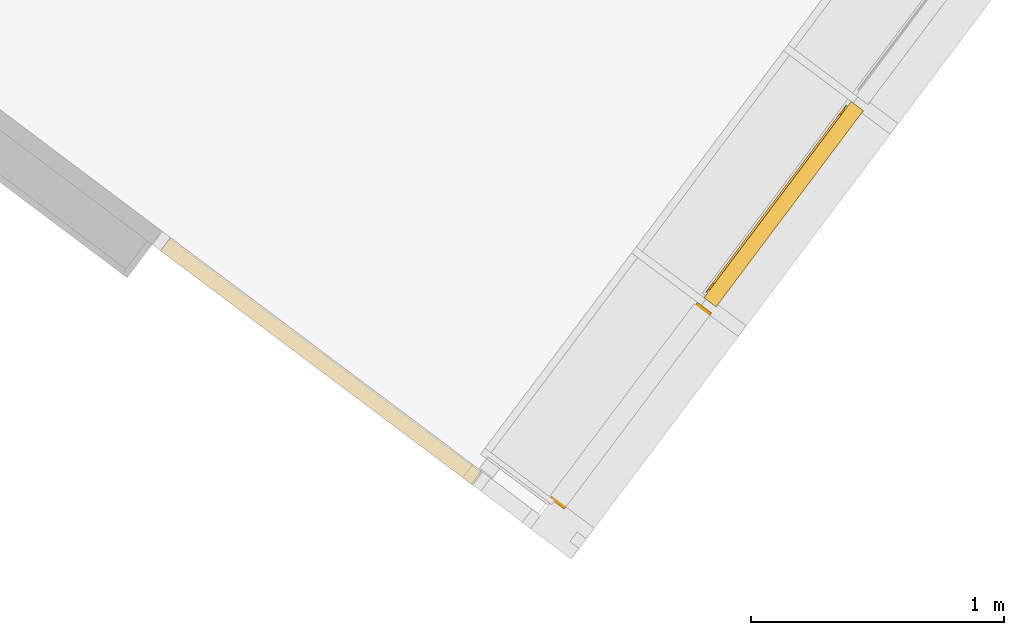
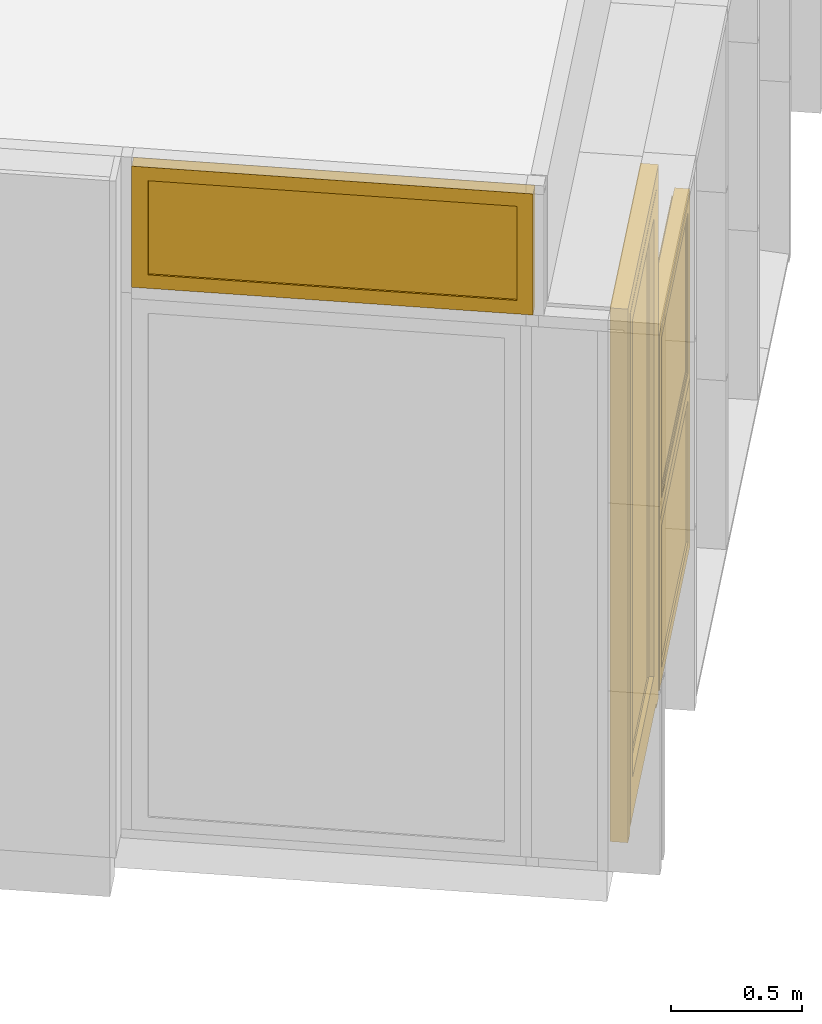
# One storey, part 143 of 243: 3 windows, 1 door, 2 elements without a shape of their own.
"""IFC2X3 building model written with IfcOpenShell, lengths in metres."""

from ifc_helpers import new_model, entity, si_unit, converted_unit, derived_unit, direction, frame, origin, place, context, subcontext, project, spatial, faceted_brep, source, transform, mapped, material, material_list, type_object, type_shapes, element, aggregate, save


model = new_model("IFC2X3")

# Units and contexts
model_context = context("Model", 3, precision=1e-05, world=origin(), true_north=direction((6.123031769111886e-17, 1.0)))
body_context = subcontext(model_context, "Body", "Model", "MODEL_VIEW")
ifc_project = project(units=[si_unit("LENGTHUNIT", "METRE"), si_unit("AREAUNIT", "SQUARE_METRE"), si_unit("VOLUMEUNIT", "CUBIC_METRE"), converted_unit("PLANEANGLEUNIT", "DEGREE", entity("IfcRatioMeasure", 0.017453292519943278), si_unit("PLANEANGLEUNIT", "RADIAN"), dimensions=[0, 0, 0, 0, 0, 0, 0]), si_unit("MASSUNIT", "GRAM", prefix="KILO"), derived_unit("MASSDENSITYUNIT", [(si_unit("MASSUNIT", "GRAM", prefix="KILO"), 1), (si_unit("LENGTHUNIT", "METRE"), -3)]), derived_unit("IONCONCENTRATIONUNIT", [(si_unit("MASSUNIT", "GRAM", prefix="KILO"), 1), (si_unit("LENGTHUNIT", "METRE"), -3)]), derived_unit("MOMENTOFINERTIAUNIT", [(si_unit("LENGTHUNIT", "METRE"), 4)]), si_unit("TIMEUNIT", "SECOND"), si_unit("FREQUENCYUNIT", "HERTZ"), si_unit("THERMODYNAMICTEMPERATUREUNIT", "DEGREE_CELSIUS"), derived_unit("THERMALTRANSMITTANCEUNIT", [(si_unit("MASSUNIT", "GRAM", prefix="KILO"), 1), (si_unit("THERMODYNAMICTEMPERATUREUNIT", "KELVIN"), -1), (si_unit("TIMEUNIT", "SECOND"), -3)]), derived_unit("THERMALCONDUCTANCEUNIT", [(si_unit("MASSUNIT", "GRAM", prefix="KILO"), 1), (si_unit("THERMODYNAMICTEMPERATUREUNIT", "KELVIN"), -1), (si_unit("TIMEUNIT", "SECOND"), -3), (si_unit("LENGTHUNIT", "METRE"), 1)]), derived_unit("VOLUMETRICFLOWRATEUNIT", [(si_unit("LENGTHUNIT", "METRE"), 3), (si_unit("TIMEUNIT", "SECOND"), -1)]), derived_unit("MASSFLOWRATEUNIT", [(si_unit("MASSUNIT", "GRAM", prefix="KILO"), 1), (si_unit("TIMEUNIT", "SECOND"), -1)]), derived_unit("ROTATIONALFREQUENCYUNIT", [(si_unit("TIMEUNIT", "SECOND"), -1)]), si_unit("ELECTRICCURRENTUNIT", "AMPERE"), si_unit("ELECTRICVOLTAGEUNIT", "VOLT"), si_unit("POWERUNIT", "WATT"), si_unit("FORCEUNIT", "NEWTON", prefix="KILO"), si_unit("ILLUMINANCEUNIT", "LUX"), si_unit("LUMINOUSFLUXUNIT", "LUMEN"), si_unit("LUMINOUSINTENSITYUNIT", "CANDELA"), derived_unit("USERDEFINED", [(si_unit("MASSUNIT", "GRAM", prefix="KILO"), -1), (si_unit("LENGTHUNIT", "METRE"), -2), (si_unit("TIMEUNIT", "SECOND"), 3), (si_unit("LUMINOUSFLUXUNIT", "LUMEN"), 1)]), derived_unit("USERDEFINED", [(si_unit("MASSUNIT", "GRAM", prefix="KILO"), 1), (si_unit("TIMEUNIT", "SECOND"), -3), (si_unit("LENGTHUNIT", "METRE"), 3), (si_unit("ELECTRICCURRENTUNIT", "AMPERE"), -2)]), derived_unit("SOUNDPOWERUNIT", [(si_unit("MASSUNIT", "GRAM", prefix="KILO"), 1), (si_unit("TIMEUNIT", "SECOND"), -3), (si_unit("LENGTHUNIT", "METRE"), 2)]), derived_unit("SOUNDPRESSUREUNIT", [(si_unit("MASSUNIT", "GRAM", prefix="KILO"), 1), (si_unit("LENGTHUNIT", "METRE"), -1), (si_unit("TIMEUNIT", "SECOND"), -2)]), derived_unit("LINEARVELOCITYUNIT", [(si_unit("LENGTHUNIT", "METRE"), 1), (si_unit("TIMEUNIT", "SECOND"), -1)]), si_unit("PRESSUREUNIT", "PASCAL"), derived_unit("USERDEFINED", [(si_unit("MASSUNIT", "GRAM", prefix="KILO"), 1), (si_unit("LENGTHUNIT", "METRE"), -2), (si_unit("TIMEUNIT", "SECOND"), -2)]), derived_unit("LINEARFORCEUNIT", [(si_unit("MASSUNIT", "GRAM", prefix="KILO"), 1), (si_unit("TIMEUNIT", "SECOND"), -2)]), derived_unit("PLANARFORCEUNIT", [(si_unit("MASSUNIT", "GRAM", prefix="KILO"), 1), (si_unit("LENGTHUNIT", "METRE"), -1), (si_unit("TIMEUNIT", "SECOND"), -2)]), derived_unit("SPECIFICHEATCAPACITYUNIT", [(si_unit("THERMODYNAMICTEMPERATUREUNIT", "KELVIN"), -1), (si_unit("LENGTHUNIT", "METRE"), 2), (si_unit("TIMEUNIT", "SECOND"), -2)]), derived_unit("HEATINGVALUEUNIT", [(si_unit("LENGTHUNIT", "METRE"), 2), (si_unit("TIMEUNIT", "SECOND"), -2)]), derived_unit("VAPORPERMEABILITYUNIT", [(si_unit("LENGTHUNIT", "METRE"), -1), (si_unit("TIMEUNIT", "SECOND"), 1)]), derived_unit("DYNAMICVISCOSITYUNIT", [(si_unit("MASSUNIT", "GRAM", prefix="KILO"), 1), (si_unit("TIMEUNIT", "SECOND"), -1), (si_unit("LENGTHUNIT", "METRE"), -1)]), derived_unit("THERMALEXPANSIONCOEFFICIENTUNIT", [(si_unit("THERMODYNAMICTEMPERATUREUNIT", "KELVIN"), -1)]), derived_unit("MODULUSOFELASTICITYUNIT", [(si_unit("MASSUNIT", "GRAM", prefix="KILO"), 1), (si_unit("LENGTHUNIT", "METRE"), -1), (si_unit("TIMEUNIT", "SECOND"), -2)]), derived_unit("ISOTHERMALMOISTURECAPACITYUNIT", [(si_unit("LENGTHUNIT", "METRE"), 3), (si_unit("MASSUNIT", "GRAM", prefix="KILO"), -1)]), derived_unit("MOISTUREDIFFUSIVITYUNIT", [(si_unit("TIMEUNIT", "SECOND"), -1), (si_unit("LENGTHUNIT", "METRE"), 2)])], contexts=[model_context])

# Site, building, storey
site_placement = place(None, frame((0.0, 0.0, 235.0), z_axis=(0.0, 0.0, 1.0), x_axis=(-0.7996477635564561, 0.6004693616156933, 0.0)))
site = spatial("IfcSite", under=ifc_project, at=site_placement, Name="Default", CompositionType="ELEMENT")
building_placement = place(site_placement, origin())
building = spatial("IfcBuilding", under=site, at=building_placement, CompositionType="ELEMENT")
storey_placement = place(building_placement, origin())
storey = spatial("IfcBuildingStorey", under=building, at=storey_placement, Name="P0- Escola", CompositionType="ELEMENT", Elevation=0.0)

# Curtain wall, windows, door
curtain_wall_type_1 = type_object("IfcCurtainWallType", Name="Muro cortina:MC- EXT- MC2", PredefinedType="NOTDEFINED")
curtain_wall_1_placement = place(storey_placement, origin())
curtain_wall_1 = element("IfcCurtainWall", 1, at=curtain_wall_1_placement, inside=storey, type_object=curtain_wall_type_1, Name="Muro cortina:MC- EXT- MC2", ObjectType="Muro cortina:MC- EXT- MC2")
ifc_material_1 = material(Name="_Vidre")
ifc_material_2 = material(Name="_Alumini- T1- Perfil")
ifc_material_list_1 = material_list([ifc_material_1, ifc_material_2])
window_style_1 = type_object("IfcWindowStyle", Name="MC- Alu- Conjunt vidre fix- 62x60 cm:MC- Alu- Conjunt vidre fix- 62x60 cm", ConstructionType="NOTDEFINED", OperationType="NOTDEFINED", ParameterTakesPrecedence=False, Sizeable=False, material=ifc_material_list_1)
shared_shape_1 = source(origin(), body_context, "Body", "Brep", [
    faceted_brep([(0.4361932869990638, -0.007600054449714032, 0.048806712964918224), (0.4361932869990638, -0.03160022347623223, 0.048806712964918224), (-0.4361932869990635, -0.03160022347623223, 0.048806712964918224), (-0.4361932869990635, -0.007600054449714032, 0.048806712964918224), (0.4361932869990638, -0.007600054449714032, 0.7387000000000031), (-0.4361932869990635, -0.007600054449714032, 0.7387000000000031), (-0.4361932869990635, -0.03160022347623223, 0.7387000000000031), (0.4361932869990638, -0.03160022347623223, 0.7387000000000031)], [[[0, 1, 2, 3]], [[4, 0, 3, 5]], [[5, 3, 2, 6]], [[6, 2, 1, 7]], [[7, 1, 0, 4]], [[4, 5, 6, 7]]]),
    faceted_brep([(0.48499999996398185, -0.05999999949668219, 0.7877000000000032), (0.48499999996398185, -0.05999999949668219, 0.0), (0.48499999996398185, 0.0, 0.0), (0.48499999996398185, 0.0, 0.787700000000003), (-0.48499999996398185, 0.0, 0.7877000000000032), (-0.48499999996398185, 0.0, 0.0), (0.4221931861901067, 0.0, 0.7248931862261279), (-0.42219318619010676, 0.0, 0.724893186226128), (-0.4221931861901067, 0.0, 0.0628068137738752), (0.4221931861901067, 0.0, 0.06280681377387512), (-0.48499999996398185, -0.05999999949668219, 0.0), (-0.48499999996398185, -0.05999999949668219, 0.7877000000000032), (-0.42219603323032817, -0.05999999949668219, 0.7248960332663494), (0.42219603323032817, -0.05999999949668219, 0.7248960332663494), (0.42219603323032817, -0.05999999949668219, 0.0628039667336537), (-0.42219603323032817, -0.05999999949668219, 0.0628039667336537), (0.4221960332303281, -0.03160022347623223, 0.7248960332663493), (0.42219603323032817, -0.03160022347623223, 0.0628039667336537), (-0.42219603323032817, -0.03160022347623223, 0.06280396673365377), (-0.42219603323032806, -0.03160022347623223, 0.7248960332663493), (-0.43619328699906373, -0.03160022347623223, 0.738893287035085), (0.43619328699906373, -0.03160022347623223, 0.738893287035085), (0.43619328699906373, -0.03160022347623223, 0.048806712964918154), (-0.43619328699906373, -0.03160022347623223, 0.04880671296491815), (0.43619328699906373, -0.007600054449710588, 0.738893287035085), (0.43619328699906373, -0.007600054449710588, 0.04880671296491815), (-0.43619328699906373, -0.007600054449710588, 0.048806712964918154), (-0.43619328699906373, -0.007600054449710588, 0.738893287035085), (-0.42219318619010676, -0.007600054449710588, 0.724893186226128), (0.42219318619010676, -0.007600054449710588, 0.724893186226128), (0.42219318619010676, -0.007600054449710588, 0.06280681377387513), (-0.42219318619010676, -0.007600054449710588, 0.06280681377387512)], [[[0, 1, 2, 3]], [[4, 3, 2, 5], [6, 7, 8, 9]], [[1, 10, 5, 2]], [[0, 11, 10, 1], [12, 13, 14, 15]], [[16, 17, 14, 13]], [[17, 18, 15, 14]], [[16, 19, 18, 17], [20, 21, 22, 23]], [[24, 25, 22, 21]], [[25, 26, 23, 22]], [[24, 27, 26, 25], [28, 29, 30, 31]], [[6, 9, 30, 29]], [[9, 8, 31, 30]], [[10, 11, 4, 5]], [[18, 19, 12, 15]], [[26, 27, 20, 23]], [[8, 7, 28, 31]], [[11, 0, 3, 4]], [[19, 16, 13, 12]], [[27, 24, 21, 20]], [[7, 6, 29, 28]]], outer=[[True], [True, False], [True], [True, False], [True], [True], [False, True], [True], [True], [True, False], [True], [True], [True], [True], [True], [True], [True], [True], [True], [True]]),
])
type_shapes(window_style_1, [shared_shape_1])
window_1_placement = place(curtain_wall_1_placement, frame((41.04514768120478, -21.915191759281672, 0.03229999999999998), z_axis=(0.0, 0.0, 1.0), x_axis=(0.0, 1.0, 0.0)))
window_1 = element("IfcWindow", 2, at=window_1_placement, type_object=window_style_1, material=ifc_material_list_1, Name="MC- Alu- Conjunt vidre fix- 62x60 cm:MC- Alu- Conjunt vidre fix- 62x60 cm", ObjectType="MC- Alu- Conjunt vidre fix- 62x60 cm:MC- Alu- Conjunt vidre fix- 62x60 cm", OverallHeight=0.7877000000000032, OverallWidth=0.9699999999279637, context=body_context, shape_type="MappedRepresentation", body=[
    mapped(shared_shape_1, transform((0.0, 0.0, 0.0), scale=1.0)),
])
ifc_material_list_2 = material_list([ifc_material_2, ifc_material_1])
door_style = type_object("IfcDoorStyle", Name="MC- Alu- Conjunt porta- 70x60 cm- +15cm- obertura int:MC- Alu- Conjunt porta- 70x60 cm- +15cm- obertura int", ConstructionType="NOTDEFINED", OperationType="NOTDEFINED", ParameterTakesPrecedence=False, Sizeable=False, material=ifc_material_list_2)
shared_shape_2 = source(origin(), body_context, "Body", "Brep", [
    faceted_brep([(0.411699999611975, 0.0, 0.024000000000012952), (0.411699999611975, -0.0656997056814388, 0.024000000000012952), (-0.41169999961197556, -0.06569970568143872, 0.024000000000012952), (-0.41169999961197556, 0.0, 0.024000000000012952), (0.41169999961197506, -0.0656997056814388, 2.410449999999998), (0.41169999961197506, 0.0, 2.410449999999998), (-0.41169999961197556, -0.06569970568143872, 2.410449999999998), (-0.4356999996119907, -0.06569970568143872, 0.0), (-0.4356999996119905, -0.06569970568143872, 2.4344500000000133), (0.4356999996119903, -0.06569970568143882, 2.4344500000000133), (0.4356999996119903, -0.0656997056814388, 0.0), (-0.41169999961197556, 0.0, 2.410449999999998), (0.33509999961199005, 0.0, 2.333850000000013), (-0.33509999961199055, 0.0, 2.3338500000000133), (-0.33509999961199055, 0.0, 0.20400000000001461), (0.33509999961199, 0.0, 0.20400000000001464), (-0.4356999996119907, -0.06999970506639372, 2.4344500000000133), (-0.4356999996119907, -0.0699997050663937, 0.0), (0.4356999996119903, -0.06999970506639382, 0.0), (0.43569999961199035, -0.06999970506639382, 2.4344500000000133), (-0.33509999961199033, -0.06999970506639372, 2.333850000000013), (0.33509999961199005, -0.06999970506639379, 2.333850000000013), (0.33509999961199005, -0.0699997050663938, 0.20400000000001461), (-0.33509999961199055, -0.06999970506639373, 0.20400000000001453), (-0.3350999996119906, -0.06449970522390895, 2.333850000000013), (-0.3350999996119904, -0.06449970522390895, 0.20400000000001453), (0.33509999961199, -0.06449970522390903, 0.20400000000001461), (0.33509999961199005, -0.06449970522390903, 2.333850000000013), (-0.36010000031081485, -0.06449970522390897, 2.3588500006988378), (0.3601000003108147, -0.06449970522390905, 2.3588500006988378), (0.3601000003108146, -0.06449970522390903, 0.17899999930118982), (-0.36010000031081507, -0.06449970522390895, 0.17899999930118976), (-0.3601000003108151, -0.018999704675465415, 2.3588500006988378), (-0.36010000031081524, -0.01899970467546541, 0.17899999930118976), (0.36010000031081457, -0.01899970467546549, 0.17899999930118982), (0.36010000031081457, -0.01899970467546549, 2.3588500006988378), (-0.33509999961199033, -0.018999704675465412, 2.333850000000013), (0.33509999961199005, -0.018999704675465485, 2.333850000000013), (0.33509999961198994, -0.01899970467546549, 0.20400000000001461), (-0.33509999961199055, -0.018999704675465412, 0.20400000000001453)], [[[0, 1, 2, 3]], [[4, 1, 0, 5]], [[2, 1, 4, 6], [7, 8, 9, 10]], [[2, 6, 11, 3]], [[12, 13, 14, 15], [11, 5, 0, 3]], [[16, 8, 7, 17]], [[10, 18, 17, 7]], [[18, 19, 16, 17], [20, 21, 22, 23]], [[24, 20, 23, 25]], [[23, 22, 26, 25]], [[27, 24, 25, 26], [28, 29, 30, 31]], [[32, 28, 31, 33]], [[33, 31, 30, 34]], [[35, 32, 33, 34], [36, 37, 38, 39]], [[13, 36, 39, 14]], [[39, 38, 15, 14]], [[9, 19, 18, 10]], [[21, 27, 26, 22]], [[29, 35, 34, 30]], [[37, 12, 15, 38]], [[19, 9, 8, 16]], [[27, 21, 20, 24]], [[35, 29, 28, 32]], [[12, 37, 36, 13]], [[4, 5, 11, 6]]], outer=[[True], [True], [False, True], [True], [False, True], [True], [True], [True, False], [True], [True], [False, True], [True], [True], [True, False], [True], [True], [True], [True], [True], [True], [True], [True], [True], [True], [True]]),
    faceted_brep([(-0.36010000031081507, -0.06089980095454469, 0.17899999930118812), (-0.36010000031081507, -0.02889980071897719, 0.17899999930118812), (0.3601000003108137, -0.028899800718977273, 0.17899999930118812), (0.3601000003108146, -0.06089980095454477, 0.17899999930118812), (-0.36010000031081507, -0.06089980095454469, 2.3588500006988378), (-0.36010000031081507, -0.028899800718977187, 2.3588500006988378), (0.3601000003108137, -0.028899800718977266, 2.3588500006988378), (0.3601000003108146, -0.06089980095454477, 2.3588500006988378)], [[[0, 1, 2, 3]], [[4, 5, 1, 0]], [[5, 6, 2, 1]], [[6, 7, 3, 2]], [[7, 4, 0, 3]], [[4, 7, 6, 5]]]),
    faceted_brep([(0.4849999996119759, -0.06999999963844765, 0.0), (0.44369999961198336, -0.06999999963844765, 0.0), (0.44369999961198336, -0.059699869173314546, 0.0), (0.4331999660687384, -0.059699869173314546, 0.0), (0.4331999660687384, -0.008800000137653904, 0.0), (0.4176999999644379, -0.008800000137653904, 0.0), (0.4176999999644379, 0.0, 0.0), (0.4849999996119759, 0.0, 0.0), (0.4849999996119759, -0.06999999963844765, 2.4837499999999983), (-0.4849999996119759, -0.06999999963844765, 2.4837499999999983), (-0.4849999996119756, -0.06999999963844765, 0.0), (-0.4436999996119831, -0.06999999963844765, 0.0), (-0.4436999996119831, -0.06999999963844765, 2.442450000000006), (0.44369999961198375, -0.06999999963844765, 2.4424500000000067), (0.44369999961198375, -0.059699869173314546, 2.4424500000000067), (-0.44369999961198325, -0.059699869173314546, 2.442450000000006), (-0.44369999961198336, -0.059699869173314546, 0.0), (-0.4331999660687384, -0.059699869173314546, 0.0), (-0.4331999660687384, -0.059699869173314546, 2.4319499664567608), (0.4331999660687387, -0.059699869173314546, 2.431949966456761), (0.4331999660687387, -0.008800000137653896, 2.431949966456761), (-0.4331999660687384, -0.008800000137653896, 2.4319499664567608), (-0.4331999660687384, -0.008800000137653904, 0.0), (-0.4176999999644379, -0.008800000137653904, 0.0), (-0.4176999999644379, -0.008800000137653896, 2.4164500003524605), (0.417699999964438, -0.008800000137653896, 2.4164500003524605), (0.417699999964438, 0.0, 2.4164500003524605), (-0.4176999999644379, 0.0, 2.4164500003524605), (-0.4176999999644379, 0.0, 0.0), (-0.4849999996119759, 0.0, 0.0), (-0.4849999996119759, 0.0, 2.4837499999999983), (0.48499999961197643, 0.0, 2.4837499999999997)], [[[0, 1, 2, 3, 4, 5, 6, 7]], [[1, 0, 8, 9, 10, 11, 12, 13]], [[2, 1, 13, 14]], [[3, 2, 14, 15, 16, 17, 18, 19]], [[4, 3, 19, 20]], [[5, 4, 20, 21, 22, 23, 24, 25]], [[6, 5, 25, 26]], [[7, 6, 26, 27, 28, 29, 30, 31]], [[0, 7, 31, 8]], [[10, 29, 28, 23, 22, 17, 16, 11]], [[9, 30, 29, 10]], [[27, 24, 23, 28]], [[21, 18, 17, 22]], [[15, 12, 11, 16]], [[14, 13, 12, 15]], [[20, 19, 18, 21]], [[26, 25, 24, 27]], [[8, 31, 30, 9]]]),
])
type_shapes(door_style, [shared_shape_2])
door_placement = place(curtain_wall_1_placement, frame((41.04514768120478, -20.91519175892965, 0.020000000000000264), z_axis=(0.0, 0.0, 1.0), x_axis=(0.0, 1.0, 0.0)))
door = element("IfcDoor", 3, at=door_placement, type_object=door_style, material=ifc_material_list_2, Name="MC- Alu- Conjunt porta- 70x60 cm- +15cm- obertura int:MC- Alu- Conjunt porta- 70x60 cm- +15cm- obertura int", ObjectType="MC- Alu- Conjunt porta- 70x60 cm- +15cm- obertura int:MC- Alu- Conjunt porta- 70x60 cm- +15cm- obertura int", OverallHeight=2.483750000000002, OverallWidth=0.9699999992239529, context=body_context, shape_type="MappedRepresentation", body=[
    mapped(shared_shape_2, transform((0.0, 0.0, 0.0), scale=1.0)),
])
window_style_2 = type_object("IfcWindowStyle", Name="MC- Alu- Conjunt finestra basculant- 68x68 cm:MC- Alu- Conjunt finestra basculant- 68x68 cm", ConstructionType="NOTDEFINED", OperationType="NOTDEFINED", ParameterTakesPrecedence=False, Sizeable=False, material=ifc_material_list_1)
shared_shape_3 = source(origin(), body_context, "Body", "Brep", [
    faceted_brep([(0.43291170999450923, -0.03559830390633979, 0.051999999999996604), (-0.43291170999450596, -0.03559830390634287, 0.051999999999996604), (-0.43291170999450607, -0.011598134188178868, 0.051999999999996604), (0.43291170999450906, -0.011598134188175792, 0.051999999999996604), (0.43291170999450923, -0.035598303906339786, 0.8228027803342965), (0.43291170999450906, -0.011598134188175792, 0.8228027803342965), (-0.43291170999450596, -0.011598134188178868, 0.8228027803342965), (-0.43291170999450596, -0.03559830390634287, 0.8228027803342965)], [[[0, 1, 2, 3]], [[4, 0, 3, 5]], [[5, 3, 2, 6]], [[6, 2, 1, 7]], [[7, 1, 0, 4]], [[4, 5, 6, 7]]]),
    faceted_brep([(-0.4172108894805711, -0.009998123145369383, 0.8071019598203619), (-0.4172108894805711, -0.00999812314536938, 0.06789804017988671), (-0.4172108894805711, -0.007998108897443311, 0.06789804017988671), (-0.4172108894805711, -0.007998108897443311, 0.8071019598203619), (-0.44610892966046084, -0.007998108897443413, 0.8360000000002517), (0.44610892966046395, -0.007998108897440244, 0.8360000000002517), (0.44610892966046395, -0.007998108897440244, 0.03899999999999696), (-0.44610892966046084, -0.007998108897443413, 0.03899999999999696), (0.4172108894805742, -0.007998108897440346, 0.8071019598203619), (0.4172108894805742, -0.007998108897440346, 0.06789804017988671), (0.4172108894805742, -0.009998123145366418, 0.06789804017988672), (0.4172108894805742, -0.009998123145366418, 0.8071019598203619), (0.4329117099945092, -0.00999812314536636, 0.8228027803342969), (-0.43291170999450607, -0.009998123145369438, 0.8228027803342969), (-0.43291170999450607, -0.009998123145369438, 0.05219721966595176), (0.4329117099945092, -0.00999812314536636, 0.052197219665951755), (-0.4329117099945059, -0.04079986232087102, 0.8228027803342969), (-0.4329117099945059, -0.04079986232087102, 0.052197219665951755), (0.4329117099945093, -0.04079986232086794, 0.05219721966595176), (0.4329117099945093, -0.04079986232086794, 0.8228027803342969), (0.41721088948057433, -0.040799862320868, 0.8071019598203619), (-0.41721088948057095, -0.04079986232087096, 0.8071019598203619), (-0.41721088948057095, -0.04079986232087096, 0.06789804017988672), (0.41721088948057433, -0.040799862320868, 0.06789804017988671), (-0.4172108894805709, -0.06800005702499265, 0.8071019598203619), (-0.4172108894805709, -0.06800005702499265, 0.06789804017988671), (0.4172108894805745, -0.0680000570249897, 0.06789804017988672), (0.4172108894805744, -0.0680000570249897, 0.8071019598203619), (0.4636128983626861, -0.06800005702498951, 0.8535039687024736), (-0.4636128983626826, -0.06800005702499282, 0.8535039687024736), (-0.4636128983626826, -0.06800005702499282, 0.021496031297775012), (0.4636128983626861, -0.06800005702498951, 0.021496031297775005), (-0.4636128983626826, -0.0645000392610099, 0.8535039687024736), (-0.4636128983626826, -0.06450003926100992, 0.021496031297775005), (0.4636128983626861, -0.06450003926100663, 0.021496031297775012), (0.4636128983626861, -0.06450003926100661, 0.8535039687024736), (0.44610892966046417, -0.06450003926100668, 0.8360000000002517), (-0.4461089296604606, -0.06450003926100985, 0.8360000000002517), (-0.4461089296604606, -0.06450003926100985, 0.03899999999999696), (0.44610892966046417, -0.06450003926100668, 0.038999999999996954)], [[[0, 1, 2, 3]], [[4, 5, 6, 7], [8, 3, 2, 9]], [[1, 10, 9, 2]], [[0, 11, 10, 1], [12, 13, 14, 15]], [[16, 17, 14, 13]], [[17, 18, 15, 14]], [[16, 19, 18, 17], [20, 21, 22, 23]], [[24, 25, 22, 21]], [[25, 26, 23, 22]], [[24, 27, 26, 25], [28, 29, 30, 31]], [[32, 33, 30, 29]], [[33, 34, 31, 30]], [[32, 35, 34, 33], [36, 37, 38, 39]], [[4, 7, 38, 37]], [[7, 6, 39, 38]], [[10, 11, 8, 9]], [[18, 19, 12, 15]], [[26, 27, 20, 23]], [[34, 35, 28, 31]], [[6, 5, 36, 39]], [[11, 0, 3, 8]], [[19, 16, 13, 12]], [[27, 24, 21, 20]], [[35, 32, 29, 28]], [[5, 4, 37, 36]]], outer=[[True], [True, False], [True], [False, True], [True], [True], [True, False], [True], [True], [False, True], [True], [True], [True, False], [True], [True], [True], [True], [True], [True], [True], [True], [True], [True], [True], [True]]),
    faceted_brep([(0.42219318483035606, 0.0, 0.8121931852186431), (0.42219318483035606, 0.0, 0.06280681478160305), (0.42219318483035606, -0.0040000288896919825, 0.06280681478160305), (0.42219318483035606, -0.0040000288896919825, 0.8121931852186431), (-0.42219318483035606, -0.0040000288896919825, 0.8121931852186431), (-0.42219318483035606, -0.0040000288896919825, 0.06280681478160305), (0.4575998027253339, -0.0040000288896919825, 0.8475998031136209), (-0.4575998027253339, -0.0040000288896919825, 0.8475998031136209), (-0.4575998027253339, -0.0040000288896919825, 0.027400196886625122), (0.4575998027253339, -0.0040000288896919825, 0.02740019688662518), (-0.42219318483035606, 0.0, 0.06280681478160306), (-0.42219318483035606, 0.0, 0.8121931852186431), (-0.48499999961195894, 0.0, 0.875000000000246), (0.48499999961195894, 0.0, 0.875000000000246), (0.48499999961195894, 0.0, 0.0), (-0.48499999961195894, 0.0, 0.0), (0.48499999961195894, -0.05999999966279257, 0.875000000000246), (0.48499999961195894, -0.05999999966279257, 0.0), (-0.48499999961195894, -0.05999999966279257, 0.0), (-0.48499999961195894, -0.05999999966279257, 0.875000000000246), (-0.4575998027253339, -0.05999999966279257, 0.8475998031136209), (0.4575998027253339, -0.05999999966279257, 0.8475998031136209), (0.4575998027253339, -0.05999999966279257, 0.027400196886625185), (-0.4575998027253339, -0.05999999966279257, 0.02740019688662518)], [[[0, 1, 2, 3]], [[4, 3, 2, 5], [6, 7, 8, 9]], [[1, 10, 5, 2]], [[0, 11, 10, 1], [12, 13, 14, 15]], [[16, 17, 14, 13]], [[17, 18, 15, 14]], [[16, 19, 18, 17], [20, 21, 22, 23]], [[6, 9, 22, 21]], [[9, 8, 23, 22]], [[10, 11, 4, 5]], [[18, 19, 12, 15]], [[8, 7, 20, 23]], [[11, 0, 3, 4]], [[19, 16, 13, 12]], [[7, 6, 21, 20]]], outer=[[True], [False, True], [True], [False, True], [True], [True], [True, False], [True], [True], [True], [True], [True], [True], [True], [True]]),
])
type_shapes(window_style_2, [shared_shape_3])
window_2_placement = place(curtain_wall_1_placement, frame((41.04514768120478, -21.915191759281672, 0.8200000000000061), z_axis=(0.0, 0.0, 1.0), x_axis=(0.0, 1.0, 0.0)))
window_2 = element("IfcWindow", 4, at=window_2_placement, type_object=window_style_2, material=ifc_material_list_1, Name="MC- Alu- Conjunt finestra basculant- 68x68 cm:MC- Alu- Conjunt finestra basculant- 68x68 cm", ObjectType="MC- Alu- Conjunt finestra basculant- 68x68 cm:MC- Alu- Conjunt finestra basculant- 68x68 cm", OverallHeight=0.8750000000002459, OverallWidth=0.9699999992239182, context=body_context, shape_type="MappedRepresentation", body=[
    mapped(shared_shape_3, transform((0.0, 0.0, 0.0), scale=1.0)),
])
aggregate(curtain_wall_1, [door, window_1, window_2])

# Curtain wall, window
curtain_wall_type_2 = type_object("IfcCurtainWallType", Name="Muro cortina:MC- EXT- AL1- Fa porxo", PredefinedType="NOTDEFINED")
curtain_wall_2_placement = place(storey_placement, origin())
curtain_wall_2 = element("IfcCurtainWall", 5, at=curtain_wall_2_placement, inside=storey, type_object=curtain_wall_type_2, Name="Muro cortina:MC- EXT- AL1- Fa porxo", ObjectType="Muro cortina:MC- EXT- AL1- Fa porxo")
window_style_3 = type_object("IfcWindowStyle", Name="MC- Alu- Conjunt vidre fix- 62x60 cm:MC- Alu- Conjunt vidre fix- 62x60 cm", ConstructionType="NOTDEFINED", OperationType="NOTDEFINED", ParameterTakesPrecedence=False, Sizeable=False, material=ifc_material_list_1)
shared_shape_4 = source(origin(), body_context, "Body", "Brep", [
    faceted_brep([(-0.7221079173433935, -0.007600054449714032, 0.048806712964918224), (0.7221079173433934, -0.007600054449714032, 0.048806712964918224), (0.7221079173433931, -0.03160022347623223, 0.048806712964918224), (-0.7221079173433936, -0.03160022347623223, 0.048806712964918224), (-0.7221079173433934, -0.007600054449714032, 0.5147500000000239), (0.7221079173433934, -0.007600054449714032, 0.5147500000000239), (0.7221079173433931, -0.03160022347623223, 0.5147500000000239), (-0.7221079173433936, -0.03160022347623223, 0.5147500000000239)], [[[0, 1, 2, 3]], [[4, 5, 1, 0]], [[5, 6, 2, 1]], [[6, 7, 3, 2]], [[7, 4, 0, 3]], [[4, 7, 6, 5]]]),
    faceted_brep([(-0.7709146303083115, -0.05999999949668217, 0.563750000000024), (-0.7709146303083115, 0.0, 0.563750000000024), (-0.7709146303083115, 0.0, 0.0), (-0.7709146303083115, -0.05999999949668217, 0.0), (-0.7081078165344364, 0.0, 0.5009431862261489), (-0.7081078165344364, 0.0, 0.06280681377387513), (0.7081078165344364, 0.0, 0.06280681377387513), (0.7081078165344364, 0.0, 0.5009431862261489), (0.7709146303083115, 0.0, 0.563750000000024), (0.7709146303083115, 0.0, 0.0), (0.7709146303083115, -0.05999999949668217, 0.0), (0.7709146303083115, -0.05999999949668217, 0.563750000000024), (0.7081106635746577, -0.05999999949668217, 0.5009460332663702), (0.7081106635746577, -0.05999999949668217, 0.06280396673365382), (-0.7081106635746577, -0.05999999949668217, 0.06280396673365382), (-0.7081106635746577, -0.05999999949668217, 0.5009460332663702), (-0.7081106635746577, -0.03160022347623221, 0.5009460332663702), (-0.7081106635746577, -0.03160022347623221, 0.06280396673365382), (0.7081106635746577, -0.03160022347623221, 0.06280396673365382), (0.7081106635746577, -0.03160022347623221, 0.5009460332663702), (0.7221079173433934, -0.03160022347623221, 0.5149432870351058), (0.7221079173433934, -0.03160022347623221, 0.048806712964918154), (-0.7221079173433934, -0.03160022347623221, 0.04880671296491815), (-0.7221079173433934, -0.03160022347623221, 0.5149432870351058), (-0.7221079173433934, -0.007600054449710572, 0.5149432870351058), (-0.7221079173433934, -0.007600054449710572, 0.04880671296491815), (0.7221079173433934, -0.007600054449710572, 0.048806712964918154), (0.7221079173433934, -0.007600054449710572, 0.5149432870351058), (0.7081078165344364, -0.007600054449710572, 0.5009431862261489), (0.7081078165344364, -0.007600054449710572, 0.06280681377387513), (-0.7081078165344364, -0.007600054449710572, 0.06280681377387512), (-0.7081078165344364, -0.007600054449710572, 0.5009431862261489)], [[[0, 1, 2, 3]], [[4, 5, 6, 7], [8, 9, 2, 1]], [[3, 2, 9, 10]], [[0, 3, 10, 11], [12, 13, 14, 15]], [[16, 15, 14, 17]], [[17, 14, 13, 18]], [[16, 17, 18, 19], [20, 21, 22, 23]], [[24, 23, 22, 25]], [[25, 22, 21, 26]], [[24, 25, 26, 27], [28, 29, 30, 31]], [[4, 31, 30, 5]], [[5, 30, 29, 6]], [[10, 9, 8, 11]], [[18, 13, 12, 19]], [[26, 21, 20, 27]], [[6, 29, 28, 7]], [[11, 8, 1, 0]], [[19, 12, 15, 16]], [[27, 20, 23, 24]], [[7, 28, 31, 4]]], outer=[[True], [False, True], [True], [True, False], [True], [True], [False, True], [True], [True], [True, False], [True], [True], [True], [True], [True], [True], [True], [True], [True], [True]]),
])
type_shapes(window_style_3, [shared_shape_4])
window_3_placement = place(curtain_wall_2_placement, frame((42.16322897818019, -20.288941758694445, 2.54525)))
window_3 = element("IfcWindow", 6, at=window_3_placement, type_object=window_style_3, material=ifc_material_list_1, Name="MC- Alu- Conjunt vidre fix- 62x60 cm:MC- Alu- Conjunt vidre fix- 62x60 cm", ObjectType="MC- Alu- Conjunt vidre fix- 62x60 cm:MC- Alu- Conjunt vidre fix- 62x60 cm", OverallHeight=0.563750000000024, OverallWidth=1.541829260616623, context=body_context, shape_type="MappedRepresentation", body=[
    mapped(shared_shape_4, transform((0.0, 0.0, 0.0), scale=1.0)),
])
aggregate(curtain_wall_2, [window_3])

save(model, "model.ifc")
